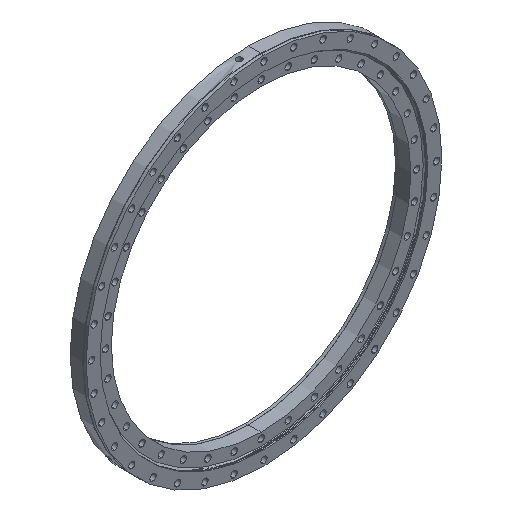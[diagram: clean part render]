
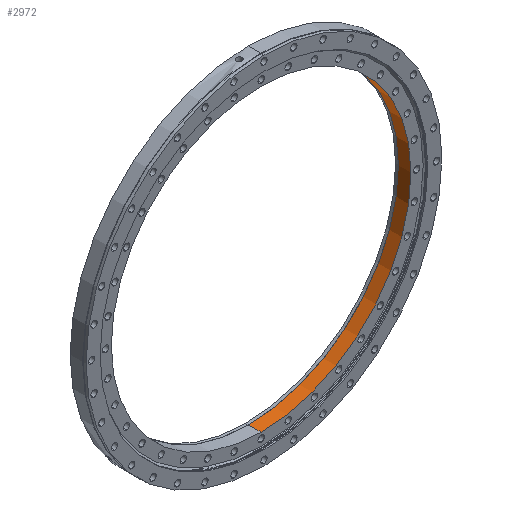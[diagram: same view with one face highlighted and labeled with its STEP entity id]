
A CAD part, isometric view. The second image highlights one B-rep face of the part: STEP entity #2972.
In plain terms, the highlighted cylindrical face has radius 527.5 mm (diameter 1055 mm), a partial arc.
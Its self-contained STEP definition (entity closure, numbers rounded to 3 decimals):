
#108 = VECTOR ( 'NONE', #1023, 1000. ) ;
#151 = ORIENTED_EDGE ( 'NONE', *, *, #4673, .F. ) ;
#409 = DIRECTION ( 'NONE',  ( 0., -1., 0. ) ) ;
#417 = LINE ( 'NONE', #2421, #108 ) ;
#614 = VECTOR ( 'NONE', #4013, 1000. ) ;
#1023 = DIRECTION ( 'NONE',  ( 0., -1., 0. ) ) ;
#1204 = VERTEX_POINT ( 'NONE', #6105 ) ;
#1285 = DIRECTION ( 'NONE',  ( 0., 0., -1. ) ) ;
#1327 = VERTEX_POINT ( 'NONE', #7000 ) ;
#1667 = CARTESIAN_POINT ( 'NONE',  ( 0., 45.134, 0. ) ) ;
#1775 = CARTESIAN_POINT ( 'NONE',  ( 0., 1.134, 0. ) ) ;
#1794 = ORIENTED_EDGE ( 'NONE', *, *, #5477, .T. ) ;
#1818 = CARTESIAN_POINT ( 'NONE',  ( 0., 0., 0. ) ) ;
#1901 = DIRECTION ( 'NONE',  ( 0., -1., 0. ) ) ;
#1916 = CARTESIAN_POINT ( 'NONE',  ( 0., 45.134, -527.5 ) ) ;
#2421 = CARTESIAN_POINT ( 'NONE',  ( 0., 0., 527.5 ) ) ;
#2811 = EDGE_CURVE ( 'NONE', #6307, #4019, #7642, .T. ) ;
#2972 = ADVANCED_FACE ( 'NONE', ( #4910 ), #7394, .F. ) ;
#3117 = CIRCLE ( 'NONE', #7799, 527.5 ) ;
#4013 = DIRECTION ( 'NONE',  ( 0., -1., 0. ) ) ;
#4019 = VERTEX_POINT ( 'NONE', #4923 ) ;
#4020 = CIRCLE ( 'NONE', #4542, 527.5 ) ;
#4242 = EDGE_CURVE ( 'NONE', #1204, #1327, #417, .T. ) ;
#4542 = AXIS2_PLACEMENT_3D ( 'NONE', #1667, #409, #5382 ) ;
#4673 = EDGE_CURVE ( 'NONE', #6307, #1204, #4020, .T. ) ;
#4701 = CARTESIAN_POINT ( 'NONE',  ( 0., 0., -527.5 ) ) ;
#4910 = FACE_OUTER_BOUND ( 'NONE', #5417, .T. ) ;
#4923 = CARTESIAN_POINT ( 'NONE',  ( 0., 1.134, -527.5 ) ) ;
#5141 = ORIENTED_EDGE ( 'NONE', *, *, #2811, .T. ) ;
#5382 = DIRECTION ( 'NONE',  ( 0., 0., -1. ) ) ;
#5417 = EDGE_LOOP ( 'NONE', ( #7938, #151, #5141, #1794 ) ) ;
#5477 = EDGE_CURVE ( 'NONE', #4019, #1327, #3117, .T. ) ;
#5681 = DIRECTION ( 'NONE',  ( 0., 0., -1. ) ) ;
#6105 = CARTESIAN_POINT ( 'NONE',  ( 0., 45.134, 527.5 ) ) ;
#6307 = VERTEX_POINT ( 'NONE', #1916 ) ;
#6477 = AXIS2_PLACEMENT_3D ( 'NONE', #1818, #1901, #5681 ) ;
#7000 = CARTESIAN_POINT ( 'NONE',  ( 0., 1.134, 527.5 ) ) ;
#7394 = CYLINDRICAL_SURFACE ( 'NONE', #6477, 527.5 ) ;
#7399 = DIRECTION ( 'NONE',  ( 0., -1., 0. ) ) ;
#7642 = LINE ( 'NONE', #4701, #614 ) ;
#7799 = AXIS2_PLACEMENT_3D ( 'NONE', #1775, #7399, #1285 ) ;
#7938 = ORIENTED_EDGE ( 'NONE', *, *, #4242, .F. ) ;
